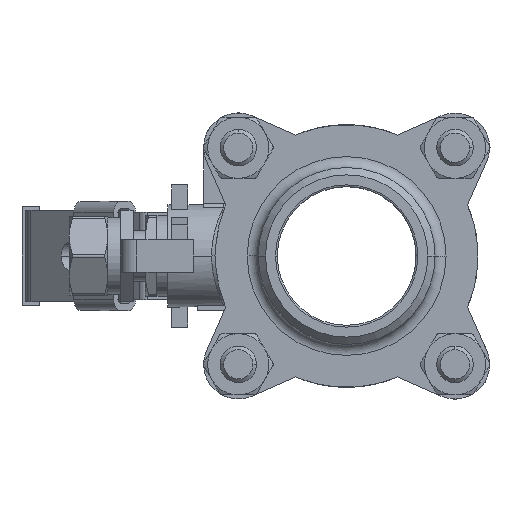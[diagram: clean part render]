
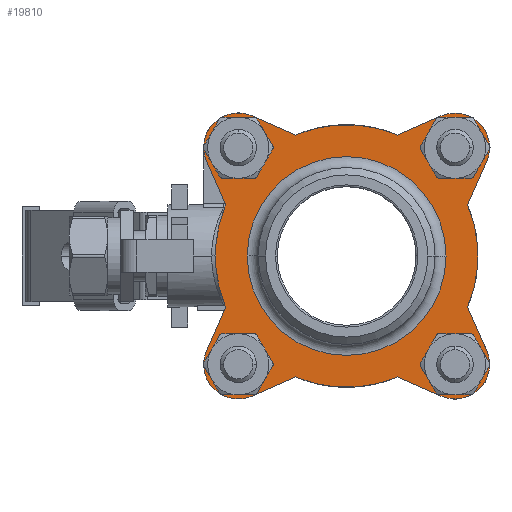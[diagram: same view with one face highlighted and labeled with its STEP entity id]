
A CAD part, left-side view. The second image highlights one B-rep face of the part: STEP entity #19810.
In plain terms, the highlighted planar face has unit normal (-1, 0, 0) as drawn and (0, 0, 1) by its records, which use the part's own axes.
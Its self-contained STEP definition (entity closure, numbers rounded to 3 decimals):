
#19065=CARTESIAN_POINT('',(-29.698,29.698,10.));
#19066=DIRECTION('',(0.,0.,-1.));
#19067=DIRECTION('',(1.,0.,0.));
#19068=AXIS2_PLACEMENT_3D('',#19065,#19066,#19067);
#19070=CARTESIAN_POINT('',(-29.698,29.698,10.));
#19071=DIRECTION('',(0.,0.,-1.));
#19072=DIRECTION('',(-1.,0.,0.));
#19073=AXIS2_PLACEMENT_3D('',#19070,#19071,#19072);
#19075=CARTESIAN_POINT('',(-29.698,-29.698,10.));
#19076=DIRECTION('',(0.,0.,-1.));
#19077=DIRECTION('',(1.,0.,0.));
#19078=AXIS2_PLACEMENT_3D('',#19075,#19076,#19077);
#19080=CARTESIAN_POINT('',(-29.698,-29.698,10.));
#19081=DIRECTION('',(0.,0.,-1.));
#19082=DIRECTION('',(-1.,0.,0.));
#19083=AXIS2_PLACEMENT_3D('',#19080,#19081,#19082);
#19085=CARTESIAN_POINT('',(29.698,-29.698,10.));
#19086=DIRECTION('',(0.,0.,-1.));
#19087=DIRECTION('',(1.,0.,0.));
#19088=AXIS2_PLACEMENT_3D('',#19085,#19086,#19087);
#19090=CARTESIAN_POINT('',(29.698,-29.698,10.));
#19091=DIRECTION('',(0.,0.,-1.));
#19092=DIRECTION('',(-1.,0.,0.));
#19093=AXIS2_PLACEMENT_3D('',#19090,#19091,#19092);
#19095=CARTESIAN_POINT('',(29.698,29.698,10.));
#19096=DIRECTION('',(0.,0.,-1.));
#19097=DIRECTION('',(1.,0.,0.));
#19098=AXIS2_PLACEMENT_3D('',#19095,#19096,#19097);
#19100=CARTESIAN_POINT('',(29.698,29.698,10.));
#19101=DIRECTION('',(0.,0.,-1.));
#19102=DIRECTION('',(-1.,0.,0.));
#19103=AXIS2_PLACEMENT_3D('',#19100,#19101,#19102);
#19105=CARTESIAN_POINT('',(-29.698,29.698,10.));
#19106=DIRECTION('',(0.,0.,1.));
#19107=DIRECTION('',(0.403,0.915,0.));
#19108=AXIS2_PLACEMENT_3D('',#19105,#19106,#19107);
#19110=DIRECTION('',(-0.915,0.403,0.));
#19111=VECTOR('',#19110,12.97);
#19112=CARTESIAN_POINT('',(-14.,33.166,10.));
#19113=LINE('',#19112,#19111);
#19114=CARTESIAN_POINT('',(0.,0.,10.));
#19115=DIRECTION('',(0.,0.,1.));
#19116=DIRECTION('',(0.389,0.921,0.));
#19117=AXIS2_PLACEMENT_3D('',#19114,#19115,#19116);
#19119=DIRECTION('',(-0.915,-0.403,0.));
#19120=VECTOR('',#19119,12.97);
#19121=CARTESIAN_POINT('',(25.87,38.393,10.));
#19122=LINE('',#19121,#19120);
#19123=CARTESIAN_POINT('',(29.698,29.698,10.));
#19124=DIRECTION('',(0.,0.,1.));
#19125=DIRECTION('',(0.915,-0.403,0.));
#19126=AXIS2_PLACEMENT_3D('',#19123,#19124,#19125);
#19128=DIRECTION('',(0.403,0.915,0.));
#19129=VECTOR('',#19128,12.97);
#19130=CARTESIAN_POINT('',(33.166,14.,10.));
#19131=LINE('',#19130,#19129);
#19132=CARTESIAN_POINT('',(0.,0.,10.));
#19133=DIRECTION('',(0.,0.,1.));
#19134=DIRECTION('',(0.921,-0.389,0.));
#19135=AXIS2_PLACEMENT_3D('',#19132,#19133,#19134);
#19137=DIRECTION('',(-0.403,0.915,0.));
#19138=VECTOR('',#19137,12.97);
#19139=CARTESIAN_POINT('',(38.393,-25.87,10.));
#19140=LINE('',#19139,#19138);
#19141=CARTESIAN_POINT('',(29.698,-29.698,10.));
#19142=DIRECTION('',(0.,0.,1.));
#19143=DIRECTION('',(-0.403,-0.915,0.));
#19144=AXIS2_PLACEMENT_3D('',#19141,#19142,#19143);
#19146=DIRECTION('',(0.915,-0.403,0.));
#19147=VECTOR('',#19146,12.97);
#19148=CARTESIAN_POINT('',(14.,-33.166,10.));
#19149=LINE('',#19148,#19147);
#19150=CARTESIAN_POINT('',(0.,0.,10.));
#19151=DIRECTION('',(0.,0.,1.));
#19152=DIRECTION('',(-0.389,-0.921,0.));
#19153=AXIS2_PLACEMENT_3D('',#19150,#19151,#19152);
#19155=DIRECTION('',(0.915,0.403,0.));
#19156=VECTOR('',#19155,12.97);
#19157=CARTESIAN_POINT('',(-25.87,-38.393,10.));
#19158=LINE('',#19157,#19156);
#19159=CARTESIAN_POINT('',(-29.698,-29.698,10.));
#19160=DIRECTION('',(0.,0.,1.));
#19161=DIRECTION('',(-0.915,0.403,0.));
#19162=AXIS2_PLACEMENT_3D('',#19159,#19160,#19161);
#19164=DIRECTION('',(-0.403,-0.915,0.));
#19165=VECTOR('',#19164,12.97);
#19166=CARTESIAN_POINT('',(-33.166,-14.,10.));
#19167=LINE('',#19166,#19165);
#19168=CARTESIAN_POINT('',(0.,0.,10.));
#19169=DIRECTION('',(0.,0.,1.));
#19170=DIRECTION('',(-0.921,0.389,0.));
#19171=AXIS2_PLACEMENT_3D('',#19168,#19169,#19170);
#19173=DIRECTION('',(0.403,-0.915,0.));
#19174=VECTOR('',#19173,12.97);
#19175=CARTESIAN_POINT('',(-38.393,25.87,10.));
#19176=LINE('',#19175,#19174);
#19177=CARTESIAN_POINT('',(0.,0.,10.));
#19178=DIRECTION('',(0.,0.,1.));
#19179=DIRECTION('',(1.,0.,0.));
#19180=AXIS2_PLACEMENT_3D('',#19177,#19178,#19179);
#19182=CARTESIAN_POINT('',(0.,0.,10.));
#19183=DIRECTION('',(0.,0.,1.));
#19184=DIRECTION('',(-1.,0.,0.));
#19185=AXIS2_PLACEMENT_3D('',#19182,#19183,#19184);
#19465=CARTESIAN_POINT('',(27.25,0.,10.));
#19466=CARTESIAN_POINT('',(-27.25,0.,10.));
#19467=VERTEX_POINT('',#19465);
#19468=VERTEX_POINT('',#19466);
#19493=CARTESIAN_POINT('',(-24.198,29.698,10.));
#19494=CARTESIAN_POINT('',(-35.198,29.698,10.));
#19495=VERTEX_POINT('',#19493);
#19496=VERTEX_POINT('',#19494);
#19497=CARTESIAN_POINT('',(-24.198,-29.698,10.));
#19498=CARTESIAN_POINT('',(-35.198,-29.698,10.));
#19499=VERTEX_POINT('',#19497);
#19500=VERTEX_POINT('',#19498);
#19501=CARTESIAN_POINT('',(35.198,-29.698,10.));
#19502=CARTESIAN_POINT('',(24.198,-29.698,10.));
#19503=VERTEX_POINT('',#19501);
#19504=VERTEX_POINT('',#19502);
#19505=CARTESIAN_POINT('',(35.198,29.698,10.));
#19506=CARTESIAN_POINT('',(24.198,29.698,10.));
#19507=VERTEX_POINT('',#19505);
#19508=VERTEX_POINT('',#19506);
#19509=CARTESIAN_POINT('',(-25.87,38.393,10.));
#19510=CARTESIAN_POINT('',(-38.393,25.87,10.));
#19511=VERTEX_POINT('',#19509);
#19512=VERTEX_POINT('',#19510);
#19513=CARTESIAN_POINT('',(-33.166,14.,10.));
#19514=VERTEX_POINT('',#19513);
#19515=CARTESIAN_POINT('',(-33.166,-14.,10.));
#19516=VERTEX_POINT('',#19515);
#19517=CARTESIAN_POINT('',(-38.393,-25.87,10.));
#19518=VERTEX_POINT('',#19517);
#19519=CARTESIAN_POINT('',(-25.87,-38.393,10.));
#19520=VERTEX_POINT('',#19519);
#19521=CARTESIAN_POINT('',(-14.,-33.166,10.));
#19522=VERTEX_POINT('',#19521);
#19523=CARTESIAN_POINT('',(14.,-33.166,10.));
#19524=VERTEX_POINT('',#19523);
#19525=CARTESIAN_POINT('',(25.87,-38.393,10.));
#19526=VERTEX_POINT('',#19525);
#19527=CARTESIAN_POINT('',(38.393,-25.87,10.));
#19528=VERTEX_POINT('',#19527);
#19529=CARTESIAN_POINT('',(33.166,-14.,10.));
#19530=VERTEX_POINT('',#19529);
#19531=CARTESIAN_POINT('',(33.166,14.,10.));
#19532=VERTEX_POINT('',#19531);
#19533=CARTESIAN_POINT('',(38.393,25.87,10.));
#19534=VERTEX_POINT('',#19533);
#19535=CARTESIAN_POINT('',(25.87,38.393,10.));
#19536=VERTEX_POINT('',#19535);
#19537=CARTESIAN_POINT('',(14.,33.166,10.));
#19538=VERTEX_POINT('',#19537);
#19539=CARTESIAN_POINT('',(-14.,33.166,10.));
#19540=VERTEX_POINT('',#19539);
#19746=CARTESIAN_POINT('',(0.,0.,10.));
#19747=DIRECTION('',(0.,0.,1.));
#19748=DIRECTION('',(1.,0.,0.));
#19749=AXIS2_PLACEMENT_3D('',#19746,#19747,#19748);
#19750=PLANE('',#19749);
#19752=ORIENTED_EDGE('',*,*,#19751,.F.);
#19754=ORIENTED_EDGE('',*,*,#19753,.F.);
#19755=ORIENTED_EDGE('',*,*,#19614,.F.);
#19757=ORIENTED_EDGE('',*,*,#19756,.F.);
#19759=ORIENTED_EDGE('',*,*,#19758,.F.);
#19760=ORIENTED_EDGE('',*,*,#19739,.F.);
#19761=ORIENTED_EDGE('',*,*,#19606,.F.);
#19763=ORIENTED_EDGE('',*,*,#19762,.F.);
#19765=ORIENTED_EDGE('',*,*,#19764,.F.);
#19766=ORIENTED_EDGE('',*,*,#19642,.F.);
#19767=ORIENTED_EDGE('',*,*,#19629,.F.);
#19769=ORIENTED_EDGE('',*,*,#19768,.F.);
#19771=ORIENTED_EDGE('',*,*,#19770,.F.);
#19773=ORIENTED_EDGE('',*,*,#19772,.F.);
#19775=ORIENTED_EDGE('',*,*,#19774,.F.);
#19777=ORIENTED_EDGE('',*,*,#19776,.F.);
#19778=EDGE_LOOP('',(#19752,#19754,#19755,#19757,#19759,#19760,#19761,#19763,
#19765,#19766,#19767,#19769,#19771,#19773,#19775,#19777));
#19779=FACE_OUTER_BOUND('',#19778,.F.);
#19781=ORIENTED_EDGE('',*,*,#19780,.F.);
#19783=ORIENTED_EDGE('',*,*,#19782,.F.);
#19784=EDGE_LOOP('',(#19781,#19783));
#19785=FACE_BOUND('',#19784,.F.);
#19787=ORIENTED_EDGE('',*,*,#19786,.F.);
#19789=ORIENTED_EDGE('',*,*,#19788,.F.);
#19790=EDGE_LOOP('',(#19787,#19789));
#19791=FACE_BOUND('',#19790,.F.);
#19793=ORIENTED_EDGE('',*,*,#19792,.F.);
#19795=ORIENTED_EDGE('',*,*,#19794,.F.);
#19796=EDGE_LOOP('',(#19793,#19795));
#19797=FACE_BOUND('',#19796,.F.);
#19799=ORIENTED_EDGE('',*,*,#19798,.F.);
#19801=ORIENTED_EDGE('',*,*,#19800,.F.);
#19802=EDGE_LOOP('',(#19799,#19801));
#19803=FACE_BOUND('',#19802,.F.);
#19805=ORIENTED_EDGE('',*,*,#19804,.T.);
#19807=ORIENTED_EDGE('',*,*,#19806,.T.);
#19808=EDGE_LOOP('',(#19805,#19807));
#19809=FACE_BOUND('',#19808,.F.);
#19810=ADVANCED_FACE('',(#19779,#19785,#19791,#19797,#19803,#19809),#19750,.T.);
#19069=CIRCLE('',#19068,5.5);
#19074=CIRCLE('',#19073,5.5);
#19079=CIRCLE('',#19078,5.5);
#19084=CIRCLE('',#19083,5.5);
#19089=CIRCLE('',#19088,5.5);
#19094=CIRCLE('',#19093,5.5);
#19099=CIRCLE('',#19098,5.5);
#19104=CIRCLE('',#19103,5.5);
#19109=CIRCLE('',#19108,9.5);
#19118=CIRCLE('',#19117,36.);
#19127=CIRCLE('',#19126,9.5);
#19136=CIRCLE('',#19135,36.);
#19145=CIRCLE('',#19144,9.5);
#19154=CIRCLE('',#19153,36.);
#19163=CIRCLE('',#19162,9.5);
#19172=CIRCLE('',#19171,36.);
#19181=CIRCLE('',#19180,27.25);
#19186=CIRCLE('',#19185,27.25);
#19606=EDGE_CURVE('',#19530,#19532,#19136,.T.);
#19614=EDGE_CURVE('',#19538,#19540,#19118,.T.);
#19629=EDGE_CURVE('',#19522,#19524,#19154,.T.);
#19642=EDGE_CURVE('',#19524,#19526,#19149,.T.);
#19739=EDGE_CURVE('',#19532,#19534,#19131,.T.);
#19751=EDGE_CURVE('',#19511,#19512,#19109,.T.);
#19753=EDGE_CURVE('',#19540,#19511,#19113,.T.);
#19756=EDGE_CURVE('',#19536,#19538,#19122,.T.);
#19758=EDGE_CURVE('',#19534,#19536,#19127,.T.);
#19762=EDGE_CURVE('',#19528,#19530,#19140,.T.);
#19764=EDGE_CURVE('',#19526,#19528,#19145,.T.);
#19768=EDGE_CURVE('',#19520,#19522,#19158,.T.);
#19770=EDGE_CURVE('',#19518,#19520,#19163,.T.);
#19772=EDGE_CURVE('',#19516,#19518,#19167,.T.);
#19774=EDGE_CURVE('',#19514,#19516,#19172,.T.);
#19776=EDGE_CURVE('',#19512,#19514,#19176,.T.);
#19780=EDGE_CURVE('',#19499,#19500,#19079,.T.);
#19782=EDGE_CURVE('',#19500,#19499,#19084,.T.);
#19786=EDGE_CURVE('',#19503,#19504,#19089,.T.);
#19788=EDGE_CURVE('',#19504,#19503,#19094,.T.);
#19792=EDGE_CURVE('',#19507,#19508,#19099,.T.);
#19794=EDGE_CURVE('',#19508,#19507,#19104,.T.);
#19798=EDGE_CURVE('',#19495,#19496,#19069,.T.);
#19800=EDGE_CURVE('',#19496,#19495,#19074,.T.);
#19804=EDGE_CURVE('',#19467,#19468,#19181,.T.);
#19806=EDGE_CURVE('',#19468,#19467,#19186,.T.);
